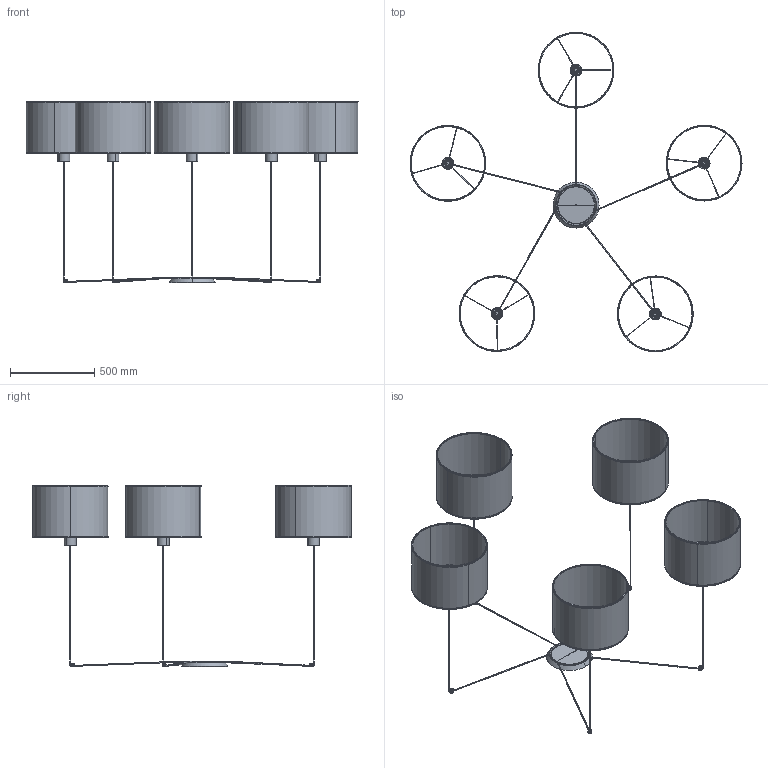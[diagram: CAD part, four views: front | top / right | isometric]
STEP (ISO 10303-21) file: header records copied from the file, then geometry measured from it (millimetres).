
FILE_DESCRIPTION(/* description */ (''),/* implementation_level */ '2;1');
FILE_NAME(/* name */ 'C:\Users\Franco Sartori E\Documents\FARO\DUPLICADO\Modelos\01_Digitalizados\2021\0_MAMBO_SAMBA_CONGA\03_Publicación\64314-49-5L.stp',/* time_stamp */ '2021-02-18T09:22:33+01:00',/* author */ ('Franco Sartori E'),/* organization */ (''),/* preprocessor_version */ 'ST-DEVELOPER v18.1',/* originating_system */ 'AutoCAD Mechanical',/* authorisation */ '');
FILE_SCHEMA (('AUTOMOTIVE_DESIGN { 1 0 10303 214 3 1 1 }'));
Length unit declared in the file: millimetre
Products named in the file (27): Product; CANOPY_5 - 68603-395923-_3D_; MAMBO450_FMA - LH-397018-_3D_; MAMBO450_FMA - LH-397020-_3D_; MAMBO450_FMA - LH-397022-_3D_; MAMBO450_FMA - LH-397024-_3D_; MAMBO450_FMA - LH-397026-_3D_; MAMBO320_FMA - LH-397028-_3D_; MAMBO320_FMA - LH-397030-_3D_; MAMBO320_FMA - LH-397032-_3D_; MAMBO320_FMA - LH-397034-_3D_; MAMBO320_FMA - LH-397036-_3D_; MAMBO210_FMA - LH-397003-_3D_; MAMBO210_FMA - LH-397006-_3D_; MAMBO210_FMA - LH-397009-_3D_; MAMBO210_FMA - LH-397012-_3D_; MAMBO210_FMA - LH-397015-_3D_; CONGA_FMA - LH-396958-_3D_; CONGA_FMA - LH-396961-_3D_; CONGA_FMA - LH-396964-_3D_; CONGA_FMA - LH-396967-_3D_; CONGA_FMA - LH-396970-_3D_; SAMBA_FMA - LH-396973-_3D_; SAMBA_FMA - LH-396977-_3D_; SAMBA_FMA - LH-396981-_3D_; SAMBA_FMA - LH-396985-_3D_; SAMBA_FMA - LH-396989-_3D_
Assembly tree (26 placements, depth 2):
  Product
    CANOPY_5 - 68603-395923-_3D_
    MAMBO450_FMA - LH-397018-_3D_
    MAMBO450_FMA - LH-397020-_3D_
    MAMBO450_FMA - LH-397022-_3D_
    MAMBO450_FMA - LH-397024-_3D_
    MAMBO450_FMA - LH-397026-_3D_
    MAMBO320_FMA - LH-397028-_3D_
    MAMBO320_FMA - LH-397030-_3D_
    MAMBO320_FMA - LH-397032-_3D_
    MAMBO320_FMA - LH-397034-_3D_
    MAMBO320_FMA - LH-397036-_3D_
    MAMBO210_FMA - LH-397003-_3D_
    MAMBO210_FMA - LH-397006-_3D_
    MAMBO210_FMA - LH-397009-_3D_
    MAMBO210_FMA - LH-397012-_3D_
    MAMBO210_FMA - LH-397015-_3D_
    CONGA_FMA - LH-396958-_3D_
    CONGA_FMA - LH-396961-_3D_
    CONGA_FMA - LH-396964-_3D_
    CONGA_FMA - LH-396967-_3D_
    CONGA_FMA - LH-396970-_3D_
    SAMBA_FMA - LH-396973-_3D_
    SAMBA_FMA - LH-396977-_3D_
    SAMBA_FMA - LH-396981-_3D_
    SAMBA_FMA - LH-396985-_3D_
    SAMBA_FMA - LH-396989-_3D_
Bounding box: 1972.13 x 1897.69 x 1078.09 mm (x, y, z)
Volume: 1762971.4 mm3; surface area: 5643415.1 mm2
Topology: 87 solids, 87 shells, 1262 faces, 2855 edges, 1651 vertices
Faces by surface type: cylinder 537, plane 463, torus 198, cone 64
Entity records: 54923 total; most frequent: CARTESIAN_POINT 27078, ORIENTED_EDGE 5690, DIRECTION 5649, EDGE_CURVE 2845, AXIS2_PLACEMENT_3D 2281, VERTEX_POINT 1651, EDGE_LOOP 1336, FACE_OUTER_BOUND 1262
